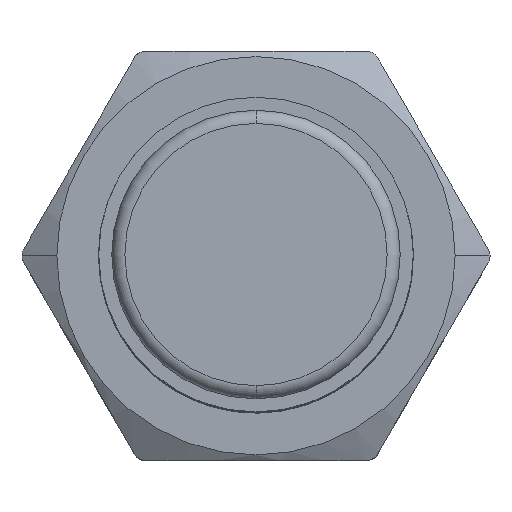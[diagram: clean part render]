
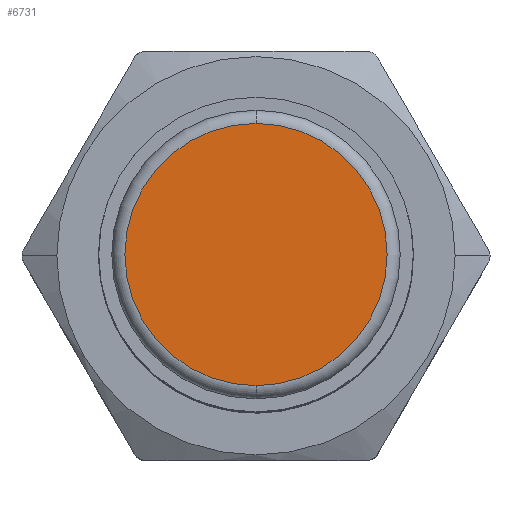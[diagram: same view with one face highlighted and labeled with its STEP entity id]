
A CAD part, top view. The second image highlights one B-rep face of the part: STEP entity #6731.
In plain terms, the highlighted planar face has unit normal (0, 0, 1).
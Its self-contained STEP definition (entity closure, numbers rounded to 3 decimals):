
#3624=CARTESIAN_POINT('',(0.,0.,50.));
#3625=DIRECTION('',(0.,0.,1.));
#3626=DIRECTION('',(0.,-1.,0.));
#3627=AXIS2_PLACEMENT_3D('',#3624,#3625,#3626);
#3632=CARTESIAN_POINT('',(0.,0.,50.));
#3633=DIRECTION('',(0.,0.,1.));
#3634=DIRECTION('',(0.,1.,0.));
#3635=AXIS2_PLACEMENT_3D('',#3632,#3633,#3634);
#3875=CARTESIAN_POINT('',(0.,-5.,50.));
#3876=CARTESIAN_POINT('',(0.,5.,50.));
#3877=VERTEX_POINT('',#3875);
#3878=VERTEX_POINT('',#3876);
#6721=CARTESIAN_POINT('',(0.,0.,50.));
#6722=DIRECTION('',(0.,0.,1.));
#6723=DIRECTION('',(0.,-1.,0.));
#6724=AXIS2_PLACEMENT_3D('',#6721,#6722,#6723);
#6725=PLANE('',#6724);
#6726=ORIENTED_EDGE('',*,*,#6711,.F.);
#6728=ORIENTED_EDGE('',*,*,#6727,.F.);
#6729=EDGE_LOOP('',(#6726,#6728));
#6730=FACE_OUTER_BOUND('',#6729,.F.);
#3628=CIRCLE('',#3627,5.);
#3636=CIRCLE('',#3635,5.);
#6711=EDGE_CURVE('',#3877,#3878,#3628,.T.);
#6727=EDGE_CURVE('',#3878,#3877,#3636,.T.);
#6731=ADVANCED_FACE('',(#6730),#6725,.T.);
